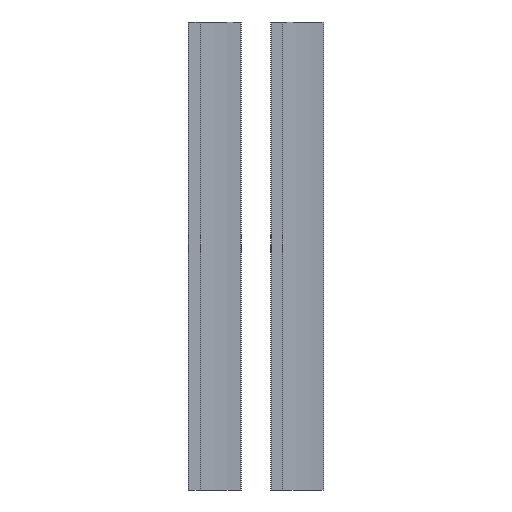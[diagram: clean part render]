
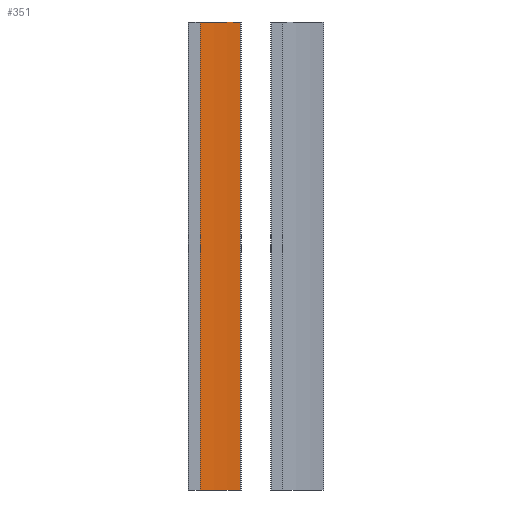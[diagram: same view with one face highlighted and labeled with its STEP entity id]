
A CAD part, front view. The second image highlights one B-rep face of the part: STEP entity #351.
In plain terms, the highlighted cylindrical face has radius 381 mm (diameter 762 mm), a partial arc.
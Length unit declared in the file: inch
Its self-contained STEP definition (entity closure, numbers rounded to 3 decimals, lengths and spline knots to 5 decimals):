
#49=FACE_OUTER_BOUND('',#67,.T.);
#67=EDGE_LOOP('',(#297,#298,#299,#300));
#73=LINE('',#502,#109);
#103=LINE('',#582,#139);
#109=VECTOR('',#398,34.);
#139=VECTOR('',#472,34.);
#151=CIRCLE('',#367,15.);
#156=CIRCLE('',#383,15.);
#158=VERTEX_POINT('',#499);
#159=VERTEX_POINT('',#501);
#174=VERTEX_POINT('',#533);
#187=VERTEX_POINT('',#581);
#190=EDGE_CURVE('',#158,#159,#73,.T.);
#207=EDGE_CURVE('',#158,#174,#151,.T.);
#230=EDGE_CURVE('',#187,#174,#103,.T.);
#231=EDGE_CURVE('',#187,#159,#156,.T.);
#297=ORIENTED_EDGE('',*,*,#190,.F.);
#298=ORIENTED_EDGE('',*,*,#207,.T.);
#299=ORIENTED_EDGE('',*,*,#230,.F.);
#300=ORIENTED_EDGE('',*,*,#231,.T.);
#338=CYLINDRICAL_SURFACE('',#382,15.);
#351=ADVANCED_FACE('',(#49),#338,.F.);
#367=AXIS2_PLACEMENT_3D('',#535,#422,#423);
#382=AXIS2_PLACEMENT_3D('',#580,#470,#471);
#383=AXIS2_PLACEMENT_3D('',#583,#473,#474);
#398=DIRECTION('',(0.,0.,-1.));
#422=DIRECTION('center_axis',(0.,0.,1.));
#423=DIRECTION('ref_axis',(-0.1,-0.995,0.));
#470=DIRECTION('center_axis',(0.,0.,1.));
#471=DIRECTION('ref_axis',(-0.1,-0.995,0.));
#472=DIRECTION('',(0.,0.,1.));
#473=DIRECTION('center_axis',(0.,0.,-1.));
#474=DIRECTION('ref_axis',(-0.1,-0.995,0.));
#499=CARTESIAN_POINT('',(3.80654,0.06922,34.));
#501=CARTESIAN_POINT('',(3.80654,0.06922,0.));
#502=CARTESIAN_POINT('',(3.80654,0.06922,0.));
#533=CARTESIAN_POINT('',(0.875,0.0625,34.));
#535=CARTESIAN_POINT('Origin',(2.375,-14.86231,34.));
#580=CARTESIAN_POINT('Origin',(2.375,-14.86231,0.));
#581=CARTESIAN_POINT('',(0.875,0.0625,0.));
#582=CARTESIAN_POINT('',(0.875,0.0625,0.));
#583=CARTESIAN_POINT('Origin',(2.375,-14.86231,0.));
